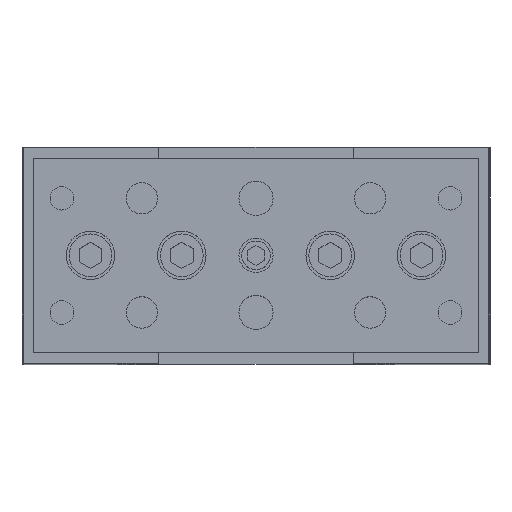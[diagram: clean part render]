
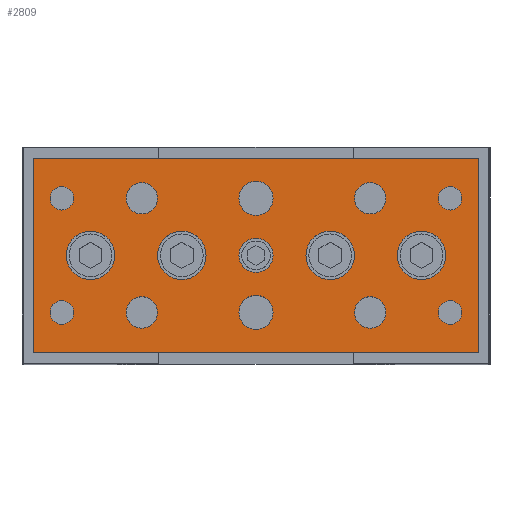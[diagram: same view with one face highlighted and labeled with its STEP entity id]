
A CAD part, top view. The second image highlights one B-rep face of the part: STEP entity #2809.
In plain terms, the highlighted planar face has unit normal (0, 0, 1).
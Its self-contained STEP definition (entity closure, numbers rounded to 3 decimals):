
#770=CARTESIAN_POINT('',(22.75,-10.0,301.0));
#771=VERTEX_POINT('',#770);
#772=CARTESIAN_POINT('',(20.,-10.0,301.0));
#773=DIRECTION('',(0.0,0.0,-1.0));
#774=DIRECTION('',(-1.0,0.0,0.0));
#775=AXIS2_PLACEMENT_3D('',#772,#773,#774);
#776=CIRCLE('',#775,2.75);
#777=EDGE_CURVE('',#771,#771,#776,.T.);
#880=CARTESIAN_POINT('',(-17.25,-10.0,301.0));
#881=VERTEX_POINT('',#880);
#882=CARTESIAN_POINT('',(-20.,-10.0,301.0));
#883=DIRECTION('',(0.0,0.0,-1.0));
#884=DIRECTION('',(-1.0,0.0,0.0));
#885=AXIS2_PLACEMENT_3D('',#882,#883,#884);
#886=CIRCLE('',#885,2.75);
#887=EDGE_CURVE('',#881,#881,#886,.T.);
#990=CARTESIAN_POINT('',(22.75,10.0,301.0));
#991=VERTEX_POINT('',#990);
#992=CARTESIAN_POINT('',(20.,10.0,301.0));
#993=DIRECTION('',(0.0,0.0,-1.0));
#994=DIRECTION('',(-1.0,0.0,0.0));
#995=AXIS2_PLACEMENT_3D('',#992,#993,#994);
#996=CIRCLE('',#995,2.75);
#997=EDGE_CURVE('',#991,#991,#996,.T.);
#1100=CARTESIAN_POINT('',(-17.25,10.0,301.0));
#1101=VERTEX_POINT('',#1100);
#1102=CARTESIAN_POINT('',(-20.,10.0,301.0));
#1103=DIRECTION('',(0.0,0.0,-1.0));
#1104=DIRECTION('',(-1.0,0.0,0.0));
#1105=AXIS2_PLACEMENT_3D('',#1102,#1103,#1104);
#1106=CIRCLE('',#1105,2.75);
#1107=EDGE_CURVE('',#1101,#1101,#1106,.T.);
#1131=CARTESIAN_POINT('',(3.,-10.0,301.0));
#1132=VERTEX_POINT('',#1131);
#1133=CARTESIAN_POINT('',(0.0,-10.0,301.0));
#1134=DIRECTION('',(0.0,0.0,-1.0));
#1135=DIRECTION('',(-1.0,0.0,0.0));
#1136=AXIS2_PLACEMENT_3D('',#1133,#1134,#1135);
#1137=CIRCLE('',#1136,3.);
#1138=EDGE_CURVE('',#1132,#1132,#1137,.T.);
#1168=CARTESIAN_POINT('',(3.,10.0,301.0));
#1169=VERTEX_POINT('',#1168);
#1170=CARTESIAN_POINT('',(0.0,10.0,301.0));
#1171=DIRECTION('',(0.0,0.0,-1.0));
#1172=DIRECTION('',(-1.0,0.0,0.0));
#1173=AXIS2_PLACEMENT_3D('',#1170,#1171,#1172);
#1174=CIRCLE('',#1173,3.);
#1175=EDGE_CURVE('',#1169,#1169,#1174,.T.);
#1226=CARTESIAN_POINT('',(-31.933,10.0,301.0));
#1227=VERTEX_POINT('',#1226);
#1228=CARTESIAN_POINT('',(-34.0,10.0,301.0));
#1229=DIRECTION('',(0.0,0.0,-1.0));
#1230=DIRECTION('',(1.0,0.0,0.0));
#1231=AXIS2_PLACEMENT_3D('',#1228,#1229,#1230);
#1232=CIRCLE('',#1231,2.067);
#1233=EDGE_CURVE('',#1227,#1227,#1232,.T.);
#1275=CARTESIAN_POINT('',(36.067,10.0,301.0));
#1276=VERTEX_POINT('',#1275);
#1277=CARTESIAN_POINT('',(34.,10.0,301.0));
#1278=DIRECTION('',(0.0,0.0,-1.0));
#1279=DIRECTION('',(1.0,0.0,0.0));
#1280=AXIS2_PLACEMENT_3D('',#1277,#1278,#1279);
#1281=CIRCLE('',#1280,2.067);
#1282=EDGE_CURVE('',#1276,#1276,#1281,.T.);
#1324=CARTESIAN_POINT('',(-31.933,-10.0,301.0));
#1325=VERTEX_POINT('',#1324);
#1326=CARTESIAN_POINT('',(-34.0,-10.0,301.0));
#1327=DIRECTION('',(0.0,0.0,-1.0));
#1328=DIRECTION('',(1.0,0.0,0.0));
#1329=AXIS2_PLACEMENT_3D('',#1326,#1327,#1328);
#1330=CIRCLE('',#1329,2.067);
#1331=EDGE_CURVE('',#1325,#1325,#1330,.T.);
#1373=CARTESIAN_POINT('',(36.067,-10.0,301.0));
#1374=VERTEX_POINT('',#1373);
#1375=CARTESIAN_POINT('',(34.,-10.0,301.0));
#1376=DIRECTION('',(0.0,0.0,-1.0));
#1377=DIRECTION('',(1.0,0.0,0.0));
#1378=AXIS2_PLACEMENT_3D('',#1375,#1376,#1377);
#1379=CIRCLE('',#1378,2.067);
#1380=EDGE_CURVE('',#1374,#1374,#1379,.T.);
#2029=CARTESIAN_POINT('',(3.,0.,301.0));
#2030=VERTEX_POINT('',#2029);
#2031=CARTESIAN_POINT('',(0.0,0.0,301.0));
#2032=DIRECTION('',(0.0,0.0,-1.0));
#2033=DIRECTION('',(-1.0,0.0,0.0));
#2034=AXIS2_PLACEMENT_3D('',#2031,#2032,#2033);
#2035=CIRCLE('',#2034,3.);
#2036=EDGE_CURVE('',#2030,#2030,#2035,.T.);
#2097=CARTESIAN_POINT('',(17.25,0.,301.0));
#2098=VERTEX_POINT('',#2097);
#2099=CARTESIAN_POINT('',(13.,0.0,301.0));
#2100=DIRECTION('',(0.0,0.0,-1.0));
#2101=DIRECTION('',(-1.0,0.0,0.0));
#2102=AXIS2_PLACEMENT_3D('',#2099,#2100,#2101);
#2103=CIRCLE('',#2102,4.25);
#2104=EDGE_CURVE('',#2098,#2098,#2103,.T.);
#2165=CARTESIAN_POINT('',(-8.75,0.,301.0));
#2166=VERTEX_POINT('',#2165);
#2167=CARTESIAN_POINT('',(-13.,0.0,301.0));
#2168=DIRECTION('',(0.0,0.0,-1.0));
#2169=DIRECTION('',(-1.0,0.0,0.0));
#2170=AXIS2_PLACEMENT_3D('',#2167,#2168,#2169);
#2171=CIRCLE('',#2170,4.25);
#2172=EDGE_CURVE('',#2166,#2166,#2171,.T.);
#2233=CARTESIAN_POINT('',(33.25,0.,301.0));
#2234=VERTEX_POINT('',#2233);
#2235=CARTESIAN_POINT('',(29.,0.0,301.0));
#2236=DIRECTION('',(0.0,0.0,-1.0));
#2237=DIRECTION('',(-1.0,0.0,0.0));
#2238=AXIS2_PLACEMENT_3D('',#2235,#2236,#2237);
#2239=CIRCLE('',#2238,4.25);
#2240=EDGE_CURVE('',#2234,#2234,#2239,.T.);
#2301=CARTESIAN_POINT('',(-24.75,0.,301.0));
#2302=VERTEX_POINT('',#2301);
#2303=CARTESIAN_POINT('',(-29.,0.0,301.0));
#2304=DIRECTION('',(0.0,0.0,-1.0));
#2305=DIRECTION('',(-1.0,0.0,0.0));
#2306=AXIS2_PLACEMENT_3D('',#2303,#2304,#2305);
#2307=CIRCLE('',#2306,4.25);
#2308=EDGE_CURVE('',#2302,#2302,#2307,.T.);
#2725=CARTESIAN_POINT('',(39.0,0.0,301.0));
#2726=DIRECTION('',(0.0,0.0,1.0));
#2727=DIRECTION('',(1.0,0.0,0.0));
#2728=AXIS2_PLACEMENT_3D('',#2725,#2726,#2727);
#2729=PLANE('',#2728);
#2730=CARTESIAN_POINT('',(39.0,17.0,301.0));
#2731=VERTEX_POINT('',#2730);
#2732=CARTESIAN_POINT('',(-39.0,17.0,301.0));
#2733=VERTEX_POINT('',#2732);
#2734=CARTESIAN_POINT('',(39.0,17.0,301.0));
#2735=DIRECTION('',(-1.0,0.0,0.0));
#2736=VECTOR('',#2735,78.0);
#2737=LINE('',#2734,#2736);
#2738=EDGE_CURVE('',#2731,#2733,#2737,.T.);
#2739=ORIENTED_EDGE('',*,*,#2738,.T.);
#2740=CARTESIAN_POINT('',(-39.0,-17.0,301.0));
#2741=VERTEX_POINT('',#2740);
#2742=CARTESIAN_POINT('',(-39.0,17.0,301.0));
#2743=DIRECTION('',(0.0,-1.0,0.0));
#2744=VECTOR('',#2743,34.0);
#2745=LINE('',#2742,#2744);
#2746=EDGE_CURVE('',#2733,#2741,#2745,.T.);
#2747=ORIENTED_EDGE('',*,*,#2746,.T.);
#2748=CARTESIAN_POINT('',(39.0,-17.0,301.0));
#2749=VERTEX_POINT('',#2748);
#2750=CARTESIAN_POINT('',(-39.0,-17.0,301.0));
#2751=DIRECTION('',(1.0,0.0,0.0));
#2752=VECTOR('',#2751,78.0);
#2753=LINE('',#2750,#2752);
#2754=EDGE_CURVE('',#2741,#2749,#2753,.T.);
#2755=ORIENTED_EDGE('',*,*,#2754,.T.);
#2756=CARTESIAN_POINT('',(39.0,-17.0,301.0));
#2757=DIRECTION('',(0.0,1.0,0.0));
#2758=VECTOR('',#2757,34.0);
#2759=LINE('',#2756,#2758);
#2760=EDGE_CURVE('',#2749,#2731,#2759,.T.);
#2761=ORIENTED_EDGE('',*,*,#2760,.T.);
#2762=EDGE_LOOP('',(#2739,#2747,#2755,#2761));
#2763=FACE_OUTER_BOUND('',#2762,.T.);
#2764=ORIENTED_EDGE('',*,*,#777,.T.);
#2765=EDGE_LOOP('',(#2764));
#2766=FACE_BOUND('',#2765,.T.);
#2767=ORIENTED_EDGE('',*,*,#887,.T.);
#2768=EDGE_LOOP('',(#2767));
#2769=FACE_BOUND('',#2768,.T.);
#2770=ORIENTED_EDGE('',*,*,#997,.T.);
#2771=EDGE_LOOP('',(#2770));
#2772=FACE_BOUND('',#2771,.T.);
#2773=ORIENTED_EDGE('',*,*,#1107,.T.);
#2774=EDGE_LOOP('',(#2773));
#2775=FACE_BOUND('',#2774,.T.);
#2776=ORIENTED_EDGE('',*,*,#1138,.T.);
#2777=EDGE_LOOP('',(#2776));
#2778=FACE_BOUND('',#2777,.T.);
#2779=ORIENTED_EDGE('',*,*,#1175,.T.);
#2780=EDGE_LOOP('',(#2779));
#2781=FACE_BOUND('',#2780,.T.);
#2782=ORIENTED_EDGE('',*,*,#1233,.T.);
#2783=EDGE_LOOP('',(#2782));
#2784=FACE_BOUND('',#2783,.T.);
#2785=ORIENTED_EDGE('',*,*,#1282,.T.);
#2786=EDGE_LOOP('',(#2785));
#2787=FACE_BOUND('',#2786,.T.);
#2788=ORIENTED_EDGE('',*,*,#1331,.T.);
#2789=EDGE_LOOP('',(#2788));
#2790=FACE_BOUND('',#2789,.T.);
#2791=ORIENTED_EDGE('',*,*,#1380,.T.);
#2792=EDGE_LOOP('',(#2791));
#2793=FACE_BOUND('',#2792,.T.);
#2794=ORIENTED_EDGE('',*,*,#2308,.T.);
#2795=EDGE_LOOP('',(#2794));
#2796=FACE_BOUND('',#2795,.T.);
#2797=ORIENTED_EDGE('',*,*,#2240,.T.);
#2798=EDGE_LOOP('',(#2797));
#2799=FACE_BOUND('',#2798,.T.);
#2800=ORIENTED_EDGE('',*,*,#2172,.T.);
#2801=EDGE_LOOP('',(#2800));
#2802=FACE_BOUND('',#2801,.T.);
#2803=ORIENTED_EDGE('',*,*,#2104,.T.);
#2804=EDGE_LOOP('',(#2803));
#2805=FACE_BOUND('',#2804,.T.);
#2806=ORIENTED_EDGE('',*,*,#2036,.T.);
#2807=EDGE_LOOP('',(#2806));
#2808=FACE_BOUND('',#2807,.T.);
#2809=ADVANCED_FACE('',(#2763,#2766,#2769,#2772,#2775,#2778,#2781,#2784,#2787,#2790,#2793,#2796,#2799,#2802,#2805,#2808),#2729,.T.);
